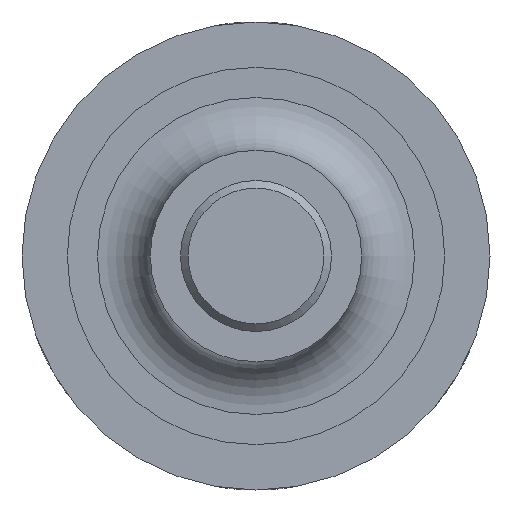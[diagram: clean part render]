
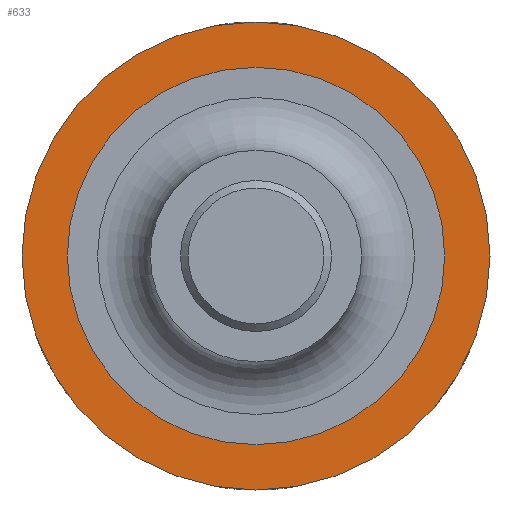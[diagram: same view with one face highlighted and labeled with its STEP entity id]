
A CAD part, front view. The second image highlights one B-rep face of the part: STEP entity #633.
In plain terms, the highlighted planar face has unit normal (0, -1, 0).
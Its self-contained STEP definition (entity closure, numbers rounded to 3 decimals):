
#39=FACE_BOUND('',#167,.T.);
#58=CIRCLE('',#710,15.5);
#59=CIRCLE('',#712,12.5);
#83=PLANE('',#711);
#113=FACE_OUTER_BOUND('',#166,.T.);
#166=EDGE_LOOP('',(#544));
#167=EDGE_LOOP('',(#545));
#318=VERTEX_POINT('',#1421);
#319=VERTEX_POINT('',#1425);
#395=EDGE_CURVE('',#318,#318,#58,.T.);
#397=EDGE_CURVE('',#319,#319,#59,.T.);
#544=ORIENTED_EDGE('',*,*,#395,.T.);
#545=ORIENTED_EDGE('',*,*,#397,.F.);
#633=ADVANCED_FACE('',(#113,#39),#83,.T.);
#710=AXIS2_PLACEMENT_3D('',#1422,#843,#844);
#711=AXIS2_PLACEMENT_3D('',#1424,#846,#847);
#712=AXIS2_PLACEMENT_3D('',#1426,#848,#849);
#843=DIRECTION('center_axis',(0.,-1.,0.));
#844=DIRECTION('ref_axis',(1.,0.,0.));
#846=DIRECTION('center_axis',(0.,-1.,0.));
#847=DIRECTION('ref_axis',(0.,0.,-1.));
#848=DIRECTION('center_axis',(0.,-1.,0.));
#849=DIRECTION('ref_axis',(1.,0.,0.));
#1421=CARTESIAN_POINT('',(-15.5,8.5,0.));
#1422=CARTESIAN_POINT('Origin',(0.,8.5,0.));
#1424=CARTESIAN_POINT('Origin',(12.5,8.5,0.));
#1425=CARTESIAN_POINT('',(-12.5,8.5,0.));
#1426=CARTESIAN_POINT('Origin',(0.,8.5,0.));
